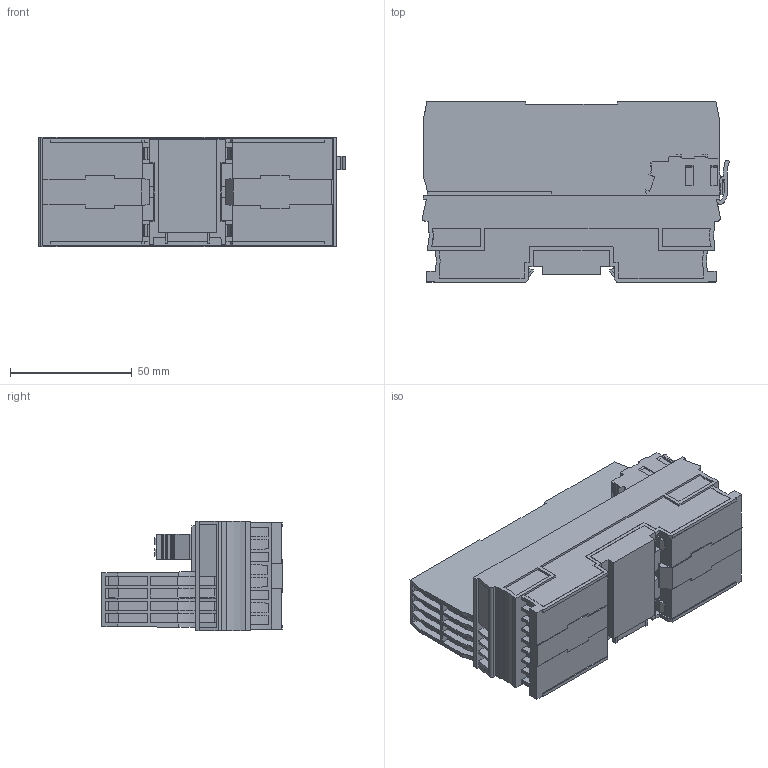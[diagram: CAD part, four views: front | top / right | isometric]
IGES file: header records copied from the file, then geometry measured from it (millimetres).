
Start section:  PTC IGES file: cu_rem-11180.igs
Global section: file name: cu_rem-11180.igs; native system: Creo Parametric by PTC Inc.; preprocessor: 2015380; author: dkendric; organization: Unknown; date: 20170511.124058; units: inch
Bounding box: 126.17 x 74.19 x 45 mm (x, y, z)
Surface area: 44577.9 mm2 (no closed solid volume)
Topology: 0 solids, 0 shells, 1288 faces, 7318 edges, 7318 vertices
Faces by surface type: bspline 1065, revolution 144, extrusion 79
